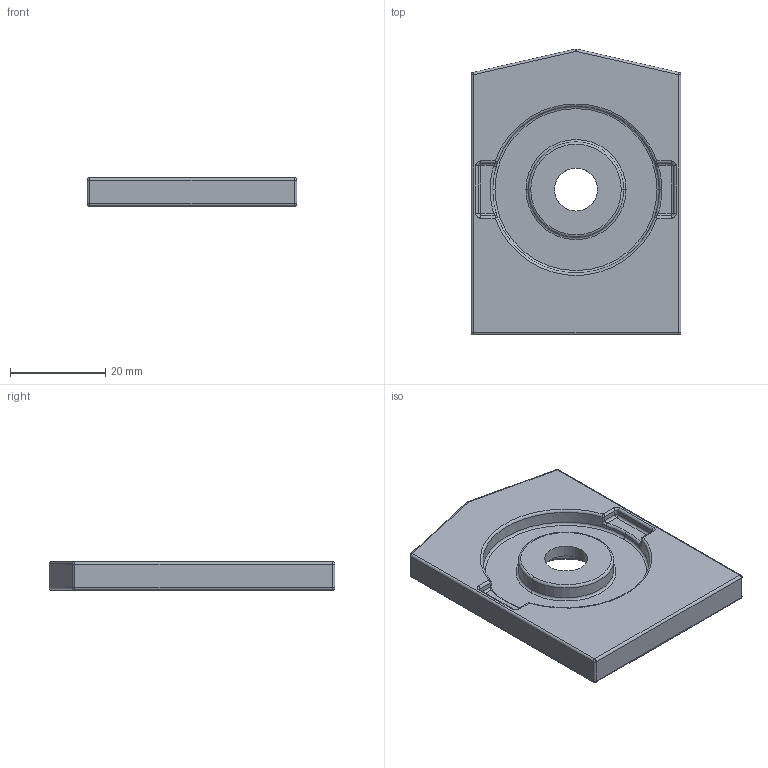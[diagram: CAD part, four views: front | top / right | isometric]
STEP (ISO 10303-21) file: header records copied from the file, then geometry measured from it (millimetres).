
FILE_DESCRIPTION (( 'STEP AP214' ), '1' );
FILE_NAME ('FGRD 6A.step', '2017-04-05T07:39:39', ( '' ), ( '' ), 'SwSTEP 2.0', 'SolidWorks 2015', '' );
FILE_SCHEMA (( 'AUTOMOTIVE_DESIGN' ));
Length unit declared in the file: millimetre
Products named in the file (1): FGRD 6A
Bounding box: 44 x 59.99 x 6 mm (x, y, z)
Volume: 8542.8 mm3; surface area: 7770.7 mm2
Topology: 1 solids, 1 shells, 139 faces, 307 edges, 157 vertices
Faces by surface type: cylinder 60, torus 26, plane 26, sphere 23, bspline 4
Entity records: 3790 total; most frequent: CARTESIAN_POINT 753, DIRECTION 718, ORIENTED_EDGE 574, AXIS2_PLACEMENT_3D 303, EDGE_CURVE 287, CIRCLE 167, VERTEX_POINT 154, EDGE_LOOP 145
